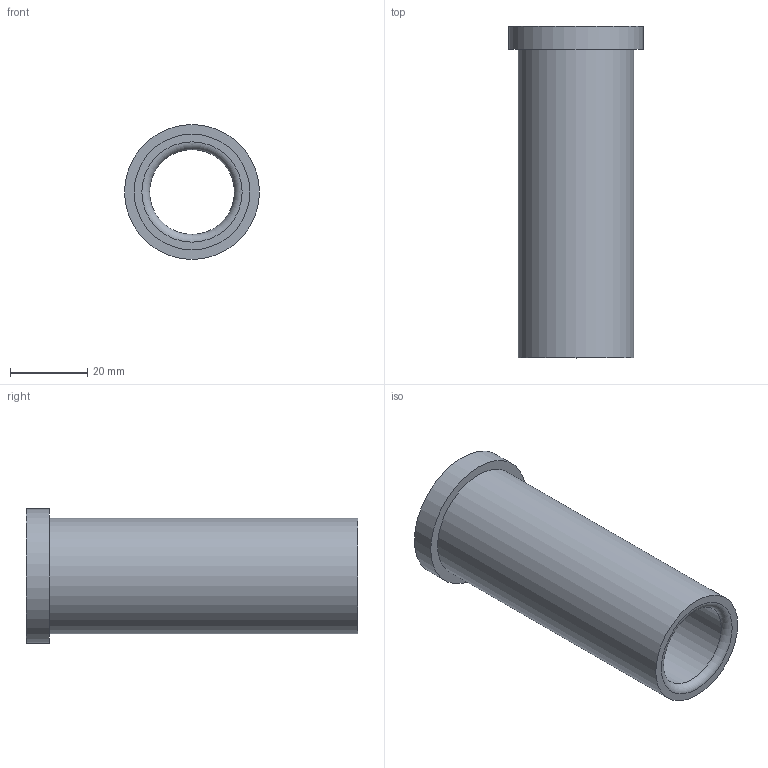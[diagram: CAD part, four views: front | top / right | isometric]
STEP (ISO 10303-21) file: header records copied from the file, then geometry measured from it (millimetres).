
FILE_DESCRIPTION(/* description */ ('STEP AP214'),/* implementation_level */ '2;1');
FILE_NAME(/* name */ '03_12_17852',/* time_stamp */ '2023-06-15T11:35:34+02:00',/* author */ ('License CC BY-ND 4.0'),/* organization */ ('CADENAS'),/* preprocessor_version */ 'ST-DEVELOPER v19.3',/* originating_system */ 'PARTsolutions',/* authorisation */ ' ');
FILE_SCHEMA (('AUTOMOTIVE_DESIGN {1 0 10303 214 3 1 1}'));
Length unit declared in the file: millimetre
Products named in the file (1): VA_Bushing_17852
Bounding box: 35 x 86 x 35 mm (x, y, z)
Volume: 29143.3 mm3; surface area: 15223.1 mm2
Topology: 1 solids, 1 shells, 10 faces, 16 edges, 10 vertices
Faces by surface type: cylinder 4, plane 4, torus 2
Full cylindrical faces by diameter (mm): 22 x1, 22.6 x1, 30 x1, 35 x1
Entity records: 302 total; most frequent: DIRECTION 42, CARTESIAN_POINT 31, AXIS2_PLACEMENT_3D 21, ORIENTED_EDGE 20, EDGE_LOOP 20, FACE_BOUND 20, EDGE_CURVE 10, VERTEX_POINT 10
